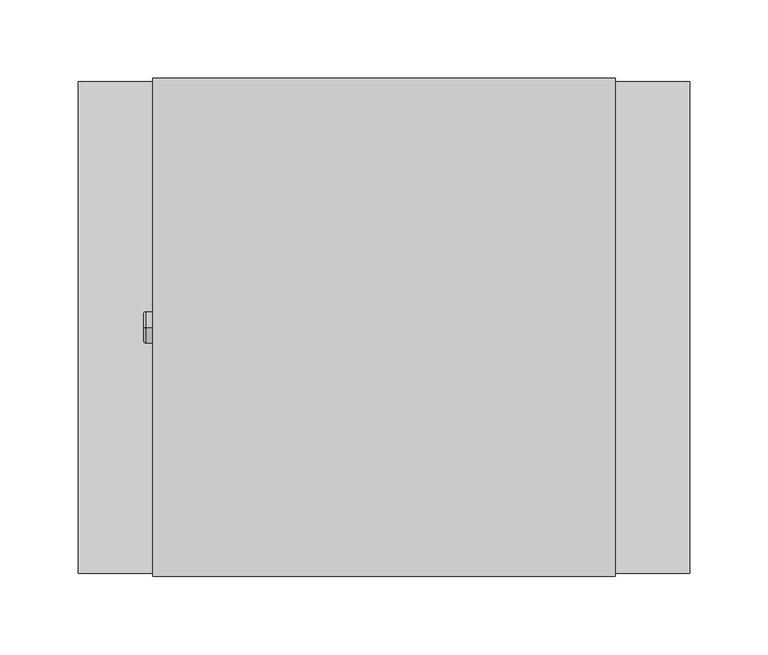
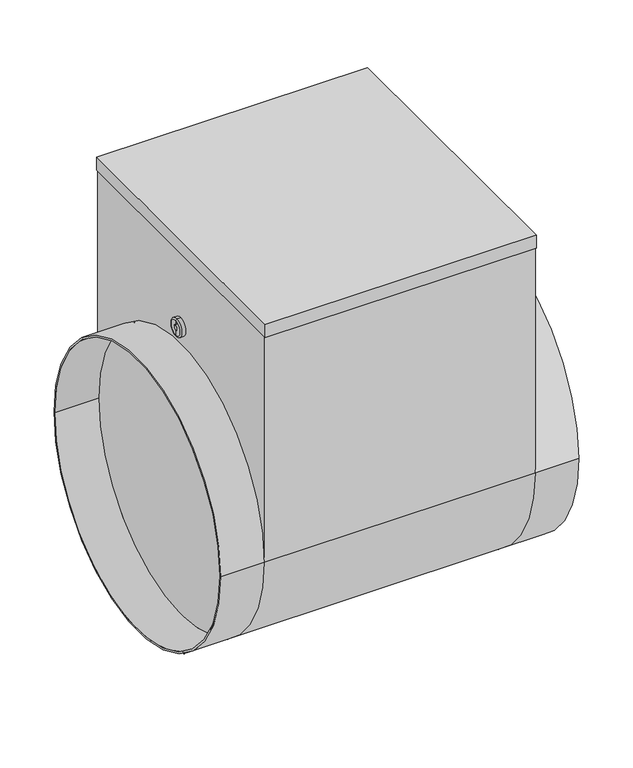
"""IFC4 building model written with IfcOpenShell, lengths in millimetres: proxy geometry, СВ_ВоздухонагревательЭлектрический_КанальныйКруглый_DN100-315_SKH-E : SKH-E-315/9."""

from ifc_helpers import new_model, si_unit, point, frame, origin, place, context, project, spatial, polyline, circle_curve, ellipse_curve, trimmed, outline, extrude, source, transform, mapped, element, save
from ifc_brep_helpers import plane_surface, cylinder_surface, revolved_surface, advanced_brep


def mechanical_equipment_7e00c6e8(model_context):
    return source(origin(), model_context, "Body", "SolidModel", [
        extrude(outline(polyline([(147.5, -159.0), (-147.5, -159.0), (-147.5, 159.0), (147.5, 159.0), (147.5, -159.0)])), frame((0.0, 0.0, 260.0), z_axis=(0.0, 0.0, 1.0), x_axis=(1.0, 0.0, 0.0)), (0.0, 0.0, 1.0), 15.0),
        advanced_brep(
        [(-195.0, -157.0, 0.0), (-195.0, 157.0, 0.0), (-195.0, -155.0, 0.0), (-195.0, 155.0, 0.0), (-147.5, 155.0, 0.0), (-147.5, -155.0, 0.0), (-147.5, 157.0, 0.0), (-147.5, -157.0, 0.0), (147.5, -155.0, 0.0), (147.5, 155.0, 0.0), (147.5, -157.0, 260.0), (147.5, -157.0, 0.0), (147.5, 157.0, 0.0), (147.5, 157.0, 260.0), (-147.5, -157.0, 260.0), (-147.5, 157.0, 260.0), (195.0, -157.0, 0.0), (195.0, 157.0, 0.0), (195.0, -155.0, 0.0), (195.0, 155.0, 0.0)],
        [
            (0, 1, circle_curve(frame((-195.0, 0.0, 0.0), z_axis=(-1.0, 0.0, 0.0), x_axis=(0.0, 1.0, 0.0)), 157.0)),
            (1, 0, circle_curve(frame((-195.0, 0.0, 0.0), z_axis=(-1.0, 0.0, 0.0), x_axis=(0.0, 1.0, 0.0)), 157.0)),
            (2, 3, circle_curve(frame((-195.0, 0.0, 0.0), z_axis=(1.0, 0.0, 0.0), x_axis=(0.0, 1.0, 0.0)), 155.0)),
            (3, 2, circle_curve(frame((-195.0, 0.0, 0.0), z_axis=(1.0, 0.0, 0.0), x_axis=(0.0, 1.0, 0.0)), 155.0)),
            (3, 4),
            (4, 5, circle_curve(frame((-147.5, 0.0, 0.0), z_axis=(1.0, 0.0, 0.0), x_axis=(0.0, 1.0, 0.0)), 155.0)),
            (5, 2),
            (5, 4, circle_curve(frame((-147.5, 0.0, 0.0), z_axis=(1.0, 0.0, 0.0), x_axis=(0.0, 1.0, 0.0)), 155.0)),
            (1, 6),
            (6, 7, circle_curve(frame((-147.5, 0.0, 0.0), z_axis=(-1.0, 0.0, 0.0), x_axis=(0.0, 1.0, 0.0)), 157.0)),
            (7, 0),
            (7, 6, circle_curve(frame((-147.5, 0.0, 0.0), z_axis=(-1.0, 0.0, 0.0), x_axis=(0.0, 1.0, 0.0)), 157.0)),
            (8, 9, circle_curve(frame((147.5, 0.0, 0.0), z_axis=(1.0, 0.0, 0.0), x_axis=(0.0, 1.0, 0.0)), 155.0)),
            (9, 8, circle_curve(frame((147.5, 0.0, 0.0), z_axis=(1.0, 0.0, 0.0), x_axis=(0.0, 1.0, 0.0)), 155.0)),
            (10, 11),
            (11, 12, circle_curve(frame((147.5, 0.0, 0.0), z_axis=(-1.0, 0.0, 0.0), x_axis=(0.0, 1.0, 0.0)), 157.0)),
            (12, 13),
            (13, 10),
            (7, 14),
            (14, 15),
            (15, 6),
            (6, 12),
            (12, 11, circle_curve(frame((147.5, 0.0, 0.0), z_axis=(-1.0, 0.0, 0.0), x_axis=(0.0, 1.0, 0.0)), 157.0)),
            (11, 7),
            (16, 17, circle_curve(frame((195.0, 0.0, 0.0), z_axis=(1.0, 0.0, 0.0), x_axis=(0.0, 1.0, 0.0)), 157.0)),
            (17, 16, circle_curve(frame((195.0, 0.0, 0.0), z_axis=(1.0, 0.0, 0.0), x_axis=(0.0, 1.0, 0.0)), 157.0)),
            (18, 19, circle_curve(frame((195.0, 0.0, 0.0), z_axis=(-1.0, 0.0, 0.0), x_axis=(0.0, 1.0, 0.0)), 155.0)),
            (19, 18, circle_curve(frame((195.0, 0.0, 0.0), z_axis=(-1.0, 0.0, 0.0), x_axis=(0.0, 1.0, 0.0)), 155.0)),
            (18, 8),
            (9, 19),
            (16, 11),
            (12, 17),
            (10, 14),
            (15, 13),
        ],
        [
            plane_surface(frame((-195.0, 155.0, 0.0), z_axis=(-1.0, 0.0, 0.0), x_axis=(0.0, 0.0, 1.0))),
            revolved_surface(polyline([(-195.0, 155.0, 0.0), (-147.5, 155.0, 0.0)]), (-195.0, 0.0, 0.0), (-1.0, 0.0, 0.0)),
            cylinder_surface(frame((0.0, 0.0, 0.0), z_axis=(1.0, 0.0, 0.0), x_axis=(0.0, 1.0, 0.0)), 157.0),
            plane_surface(frame((147.5, 157.0, 0.0), z_axis=(1.0, 0.0, 0.0), x_axis=(0.0, -1.0, 0.0))),
            plane_surface(frame((-147.5, 157.0, 0.0), z_axis=(-1.0, 0.0, 0.0), x_axis=(0.0, 1.0, 0.0))),
            cylinder_surface(frame((-147.5, 0.0, 0.0), z_axis=(1.0, 0.0, 0.0), x_axis=(0.0, 1.0, 0.0)), 157.0),
            plane_surface(frame((195.0, 155.0, 0.0), z_axis=(1.0, 0.0, 0.0), x_axis=(0.0, 0.0, -1.0))),
            revolved_surface(polyline([(147.5, 155.0, 0.0), (195.0, 155.0, 0.0)]), (147.5, 0.0, 0.0), (-1.0, 0.0, 0.0)),
            plane_surface(frame((-147.5, -157.0, 260.0), z_axis=(0.0, -1.0, 0.0), x_axis=(-1.0, 0.0, 0.0))),
            plane_surface(frame((-147.5, 157.0, 260.0), z_axis=(0.0, 1.0, 0.0), x_axis=(1.0, 0.0, 0.0))),
            plane_surface(frame((147.5, -157.0, 260.0), z_axis=(0.0, 0.0, 1.0), x_axis=(0.0, 1.0, 0.0))),
        ],
        [
            (0, [[1, 2], [3, 4]]),
            (1, [[-4, 5, 6, 7]]),
            (1, [[-3, -7, 8, -5]]),
            (2, [[-2, 9, 10, 11]]),
            (2, [[-1, -11, 12, -9]]),
            (3, [[13, 14]]),
            (3, [[15, 16, 17, 18]]),
            (4, [[-8, -6]]),
            (4, [[19, 20, 21, -12]]),
            (5, [[-10, 22, 23, 24]]),
            (6, [[25, 26], [27, 28]]),
            (7, [[-27, 29, -14, 30]]),
            (7, [[-28, -30, -13, -29]]),
            (2, [[-25, 31, -23, 32]]),
            (2, [[-26, -32, -16, -31]]),
            (8, [[33, -19, -24, -15]]),
            (9, [[-17, -22, -21, 34]]),
            (10, [[-33, -18, -34, -20]]),
        ],
    ),
        advanced_brep(
        [(-151.7840134, 0.0, 167.0), (-151.7840134, 0.0, 187.0), (-147.5, 0.0, 187.0), (-147.5, 0.0, 167.0), (-153.2459771, 0.0, 168.4619637), (-153.2459771, 0.0, 185.5380363), (-153.2459771, 0.0, 173.8948071), (-153.2459771, 0.0, 180.1051929), (-150.9138357, 0.0, 173.8948071), (-150.9138357, 0.0, 180.1051929), (-150.9138357, 0.0, 177.0), (-147.5, 0.0, 177.0)],
        [
            (0, 1, circle_curve(frame((-151.7840134, 0.0, 177.0), z_axis=(1.0, 0.0, 0.0), x_axis=(0.0, 0.0, 1.0)), 10.0)),
            (1, 2),
            (2, 3, circle_curve(frame((-147.5, 0.0, 177.0), z_axis=(-1.0, 0.0, 0.0), x_axis=(0.0, 0.0, 1.0)), 10.0)),
            (3, 0),
            (1, 0, circle_curve(frame((-151.7840134, 0.0, 177.0), z_axis=(1.0, 0.0, 0.0), x_axis=(0.0, 0.0, 1.0)), 10.0)),
            (3, 2, circle_curve(frame((-147.5, 0.0, 177.0), z_axis=(-1.0, 0.0, 0.0), x_axis=(0.0, 0.0, 1.0)), 10.0)),
            (4, 5, circle_curve(frame((-153.2459771, 0.0, 177.0), z_axis=(1.0, 0.0, 0.0), x_axis=(0.0, 0.0, 1.0)), 8.5380363)),
            (5, 1, circle_curve(frame((-151.7840134, 0.0, 185.5380363), z_axis=(0.0, 1.0, 0.0), x_axis=(1.0, 0.0, 0.0)), 1.4619637)),
            (0, 4, circle_curve(frame((-151.7840134, 0.0, 168.4619637), z_axis=(0.0, 1.0, 0.0), x_axis=(1.0, 0.0, 0.0)), 1.4619637)),
            (5, 4, circle_curve(frame((-153.2459771, 0.0, 177.0), z_axis=(1.0, 0.0, 0.0), x_axis=(0.0, 0.0, 1.0)), 8.5380363)),
            (6, 7, circle_curve(frame((-153.2459771, 0.0, 177.0), z_axis=(1.0, 0.0, 0.0), x_axis=(0.0, 0.0, 1.0)), 3.1051929)),
            (7, 5),
            (4, 6),
            (7, 6, circle_curve(frame((-153.2459771, 0.0, 177.0), z_axis=(1.0, 0.0, 0.0), x_axis=(0.0, 0.0, 1.0)), 3.1051929)),
            (8, 9, circle_curve(frame((-150.9138357, 0.0, 177.0), z_axis=(1.0, 0.0, 0.0), x_axis=(0.0, 0.0, 1.0)), 3.1051929)),
            (9, 7),
            (6, 8),
            (9, 8, circle_curve(frame((-150.9138357, 0.0, 177.0), z_axis=(1.0, 0.0, 0.0), x_axis=(0.0, 0.0, 1.0)), 3.1051929)),
            (10, 9),
            (8, 10),
            (2, 11),
            (11, 3),
        ],
        [
            cylinder_surface(frame((-183.1635229, 0.0, 177.0), z_axis=(-1.0, 0.0, 0.0), x_axis=(0.0, 0.0, 1.0)), 10.0),
            revolved_surface(trimmed(ellipse_curve(frame((-151.7840134, 0.0, 185.5380363), z_axis=(0.0, -1.0, 0.0), x_axis=(1.0, 0.0, 0.0)), 1.4619637, 1.4619637), [point((-151.7840134, 0.0, 187.0))], [point((-153.2459771, 0.0, 185.5380363))], True, "CARTESIAN"), (-183.1635229, 0.0, 177.0), (-1.0, 0.0, 0.0)),
            plane_surface(frame((-153.2459771, 0.0, 177.0), z_axis=(-1.0, 0.0, 0.0), x_axis=(0.0, 0.0, 1.0))),
            revolved_surface(polyline([(-153.2459771, 0.0, 180.1051929), (-150.9138357, 0.0, 180.1051929)]), (-183.1635229, 0.0, 177.0), (-1.0, 0.0, 0.0)),
            plane_surface(frame((-150.9138357, 0.0, 177.0), z_axis=(-1.0, 0.0, 0.0), x_axis=(0.0, 0.0, 1.0))),
            plane_surface(frame((-147.5, 0.0, 177.0), z_axis=(1.0, 0.0, 0.0), x_axis=(0.0, 0.0, 1.0))),
        ],
        [
            (0, [[1, 2, 3, 4]]),
            (0, [[5, -4, 6, -2]]),
            (1, [[7, 8, -1, 9]]),
            (1, [[10, -9, -5, -8]]),
            (2, [[11, 12, -7, 13]]),
            (2, [[14, -13, -10, -12]]),
            (3, [[15, 16, -11, 17]]),
            (3, [[18, -17, -14, -16]]),
            (4, [[19, -15, 20]]),
            (4, [[-20, -18, -19]]),
            (5, [[-3, 21, 22]]),
            (5, [[-6, -22, -21]]),
        ],
    ),
    ])


if __name__ == "__main__":
    model = new_model("IFC4")
    model_context = context("Model", 3, world=origin())
    ifc_project = project(units=[si_unit("LENGTHUNIT", "METRE", prefix="MILLI")], contexts=[model_context])
    site = spatial("IfcSite", under=ifc_project)
    building = spatial("IfcBuilding", under=site)
    placement = place(None, origin())
    mechanical_equipment_shape = mechanical_equipment_7e00c6e8(model_context)
    element("IfcBuildingElementProxy", 1, Name="СВ_ВоздухонагревательЭлектрический_КанальныйКруглый_DN100-315_SKH-E : SKH-E-315/9", ObjectType="СВ_ВоздухонагревательЭлектрический_КанальныйКруглый_DN100-315_SKH-E : SKH-E-315/9", at=placement, inside=building, context=model_context, shape_type="MappedRepresentation", body=[
        mapped(mechanical_equipment_shape, transform((0.0, 0.0, 0.0), x_axis=(1.0, 0.0, 0.0), y_axis=(0.0, 1.0, 0.0), z_axis=(0.0, 0.0, 1.0))),
    ])
    save(model, "model.ifc")
